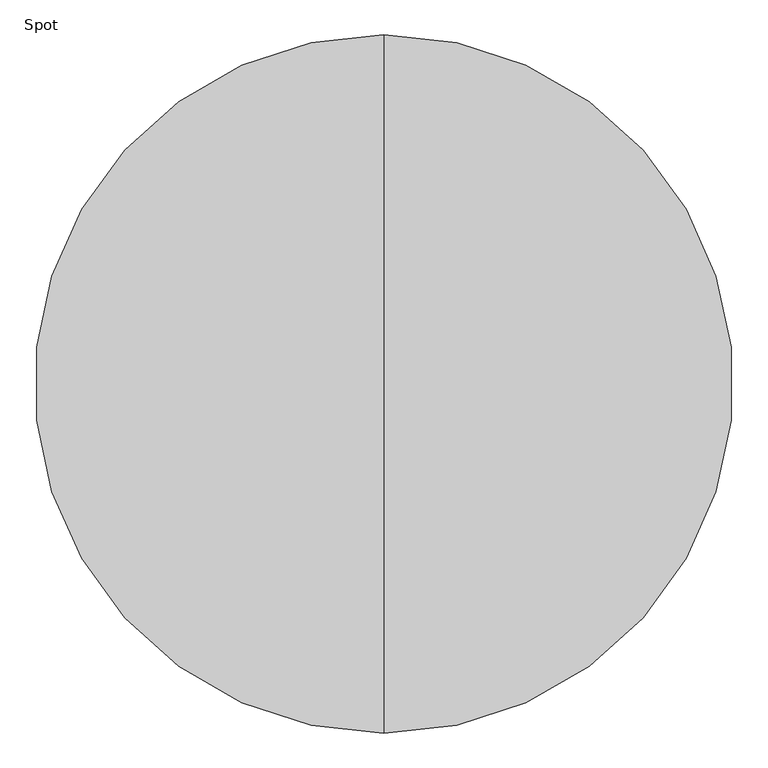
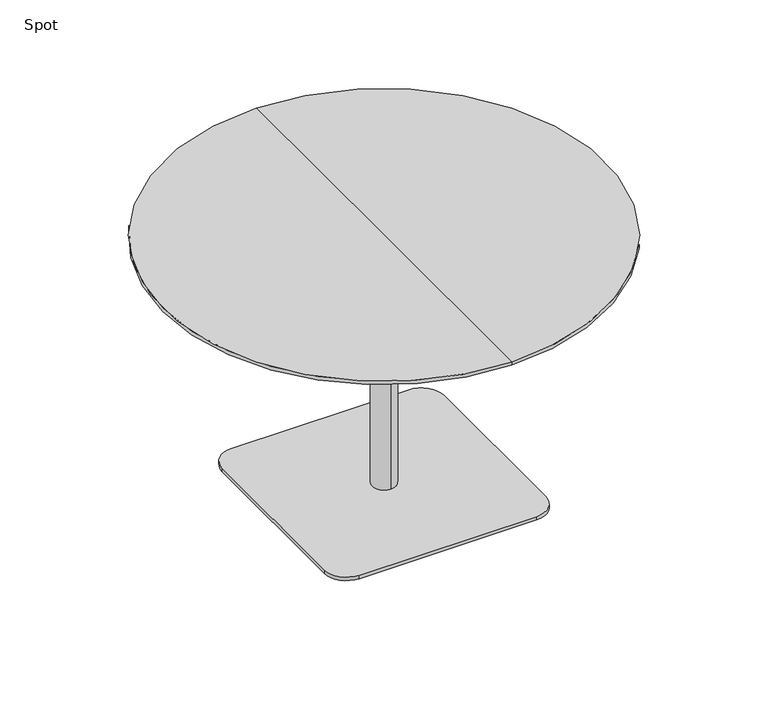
"""IFC4 building model written with IfcOpenShell, lengths in millimetres: furniture geometry, Spot : Bø120x72s."""

from ifc_helpers import new_model, si_unit, point, frame, frame_2d, origin, origin_with_axes, place, context, project, spatial, polyline, circle_curve, trimmed, segment, composite_curve, outline, extrude, source, transform, mapped, element, save
from ifc_brep_helpers import plane_surface, cylinder_surface, revolved_surface, advanced_brep


def spot_6598e2ec(model_context):
    return source(origin(), model_context, "Body", "SolidModel", [
        advanced_brep(
        [(0.0, 600.0, 720.0), (0.0, -600.0, 720.0), (0.0, 0.0, 720.0), (0.0, 600.0, 710.25), (0.0, -600.0, 710.25), (0.0, 554.2823776, 698.0), (0.0, -554.2823776, 698.0), (0.0, 0.0, 698.0)],
        [
            (0, 1, circle_curve(frame((0.0, 0.0, 720.0), z_axis=(0.0, 0.0, 1.0), x_axis=(0.0, -1.0, 0.0)), 600.0)),
            (1, 2),
            (2, 0),
            (1, 0, circle_curve(frame((0.0, 0.0, 720.0), z_axis=(0.0, 0.0, 1.0), x_axis=(0.0, -1.0, 0.0)), 600.0)),
            (3, 4, circle_curve(frame((0.0, 0.0, 710.25), z_axis=(0.0, 0.0, 1.0), x_axis=(0.0, -1.0, 0.0)), 600.0)),
            (4, 1),
            (0, 3),
            (4, 3, circle_curve(frame((0.0, 0.0, 710.25), z_axis=(0.0, 0.0, 1.0), x_axis=(0.0, -1.0, 0.0)), 600.0)),
            (5, 6, circle_curve(frame((0.0, 0.0, 698.0), z_axis=(0.0, 0.0, 1.0), x_axis=(0.0, -1.0, 0.0)), 554.2823776)),
            (6, 4),
            (3, 5),
            (6, 5, circle_curve(frame((0.0, 0.0, 698.0), z_axis=(0.0, 0.0, 1.0), x_axis=(0.0, -1.0, 0.0)), 554.2823776)),
            (7, 6),
            (5, 7),
        ],
        [
            plane_surface(frame((0.0, 0.0, 720.0), z_axis=(0.0, 0.0, 1.0), x_axis=(0.0, -1.0, 0.0))),
            cylinder_surface(frame((0.0, 0.0, 800.0), z_axis=(0.0, 0.0, -1.0), x_axis=(0.0, -1.0, 0.0)), 600.0),
            revolved_surface(polyline([(0.0, -600.0, 710.25), (0.0, -554.2823776, 698.0)]), (0.0, 0.0, 800.0), (0.0, 0.0, -1.0)),
            plane_surface(frame((0.0, 0.0, 698.0), z_axis=(0.0, 0.0, -1.0), x_axis=(0.0, -1.0, 0.0))),
        ],
        [
            (0, [[1, 2, 3]]),
            (0, [[4, -3, -2]]),
            (1, [[5, 6, -1, 7]]),
            (1, [[8, -7, -4, -6]]),
            (2, [[9, 10, -5, 11]]),
            (2, [[12, -11, -8, -10]]),
            (3, [[13, -9, 14]]),
            (3, [[-14, -12, -13]]),
        ],
    ),
        extrude(outline(composite_curve([segment(trimmed(circle_curve(frame_2d((240.0, 240.0)), 60.0), [point((240.0, 300.0))], [point((300.0, 240.0))], False, "CARTESIAN"), True, "CONTINUOUS"), segment(polyline([(300.0, 240.0), (300.0, -240.0)]), True, "CONTINUOUS"), segment(trimmed(circle_curve(frame_2d((240.0, -240.0)), 60.0), [point((300.0, -240.0))], [point((240.0, -300.0))], False, "CARTESIAN"), True, "CONTINUOUS"), segment(polyline([(240.0, -300.0), (-240.0, -300.0)]), True, "CONTINUOUS"), segment(trimmed(circle_curve(frame_2d((-240.0, -240.0)), 60.0), [point((-240.0, -300.0))], [point((-300.0, -240.0))], False, "CARTESIAN"), True, "CONTINUOUS"), segment(polyline([(-300.0, -240.0), (-300.0, 240.0)]), True, "CONTINUOUS"), segment(trimmed(circle_curve(frame_2d((-240.0, 240.0)), 60.0), [point((-300.0, 240.0))], [point((-240.0, 300.0))], False, "CARTESIAN"), True, "CONTINUOUS"), segment(polyline([(-240.0, 300.0), (240.0, 300.0)]), True, "CONTINUOUS")], self_intersect=False)), origin_with_axes(), (0.0, 0.0, 1.0), 10.0),
        advanced_brep(
        [(0.0, 32.0, 10.0), (0.0, -32.0, 10.0), (0.0, -32.0, 667.406916), (0.0, 32.0, 667.406916), (0.0, 0.0, 10.0), (0.0, 150.0, 698.0), (0.0, -150.0, 698.0), (0.0, 0.0, 698.0), (0.0, 150.0, 686.7213673), (0.0, -150.0, 686.7213673)],
        [
            (0, 1, circle_curve(frame((0.0, 0.0, 10.0), z_axis=(0.0, 0.0, 1.0), x_axis=(0.0, -1.0, 0.0)), 32.0)),
            (1, 2),
            (2, 3, circle_curve(frame((0.0, 0.0, 667.406916), z_axis=(0.0, 0.0, -1.0), x_axis=(0.0, -1.0, 0.0)), 32.0)),
            (3, 0),
            (1, 0, circle_curve(frame((0.0, 0.0, 10.0), z_axis=(0.0, 0.0, 1.0), x_axis=(0.0, -1.0, 0.0)), 32.0)),
            (3, 2, circle_curve(frame((0.0, 0.0, 667.406916), z_axis=(0.0, 0.0, -1.0), x_axis=(0.0, -1.0, 0.0)), 32.0)),
            (4, 1),
            (0, 4),
            (5, 6, circle_curve(frame((0.0, 0.0, 698.0), z_axis=(0.0, 0.0, 1.0), x_axis=(0.0, -1.0, 0.0)), 150.0)),
            (6, 7),
            (7, 5),
            (6, 5, circle_curve(frame((0.0, 0.0, 698.0), z_axis=(0.0, 0.0, 1.0), x_axis=(0.0, -1.0, 0.0)), 150.0)),
            (8, 9, circle_curve(frame((0.0, 0.0, 686.7213673), z_axis=(0.0, 0.0, 1.0), x_axis=(0.0, -1.0, 0.0)), 150.0)),
            (9, 6),
            (5, 8),
            (9, 8, circle_curve(frame((0.0, 0.0, 686.7213673), z_axis=(0.0, 0.0, 1.0), x_axis=(0.0, -1.0, 0.0)), 150.0)),
            (2, 9),
            (8, 3),
        ],
        [
            cylinder_surface(frame((0.0, 0.0, 1060.0), z_axis=(0.0, 0.0, -1.0), x_axis=(0.0, -1.0, 0.0)), 32.0),
            plane_surface(frame((0.0, 0.0, 10.0), z_axis=(0.0, 0.0, -1.0), x_axis=(0.0, -1.0, 0.0))),
            plane_surface(frame((0.0, 0.0, 698.0), z_axis=(0.0, 0.0, 1.0), x_axis=(0.0, -1.0, 0.0))),
            cylinder_surface(frame((0.0, 0.0, 1060.0), z_axis=(0.0, 0.0, -1.0), x_axis=(0.0, -1.0, 0.0)), 150.0),
            revolved_surface(polyline([(0.0, -150.0, 686.7213673), (0.0, -32.0, 667.406916)]), (0.0, 0.0, 1060.0), (0.0, 0.0, -1.0)),
        ],
        [
            (0, [[1, 2, 3, 4]]),
            (0, [[5, -4, 6, -2]]),
            (1, [[7, -1, 8]]),
            (1, [[-8, -5, -7]]),
            (2, [[9, 10, 11]]),
            (2, [[12, -11, -10]]),
            (3, [[13, 14, -9, 15]]),
            (3, [[16, -15, -12, -14]]),
            (4, [[-3, 17, -13, 18]]),
            (4, [[-6, -18, -16, -17]]),
        ],
    ),
        extrude(outline(polyline([(0.0, 0.0), (-20.0, 0.0), (-20.0, 20.0), (0.0, 20.0), (0.0, 0.0)])), origin_with_axes(), (0.0, 0.0, 1.0), 10.0),
    ])


if __name__ == "__main__":
    model = new_model("IFC4")
    model_context = context("Model", 3, world=origin())
    ifc_project = project(units=[si_unit("LENGTHUNIT", "METRE", prefix="MILLI")], contexts=[model_context])
    site = spatial("IfcSite", under=ifc_project)
    building = spatial("IfcBuilding", under=site)
    placement = place(None, origin())
    spot_shape = spot_6598e2ec(model_context)
    element("IfcFurniture", 1, ObjectType="Spot : Bø120x72s", at=placement, inside=building, context=model_context, shape_type="MappedRepresentation", body=[
        mapped(spot_shape, transform((0.0, 0.0, 0.0), x_axis=(1.0, 0.0, 0.0), y_axis=(0.0, 1.0, 0.0), z_axis=(0.0, 0.0, 1.0))),
    ])
    save(model, "model.ifc")
